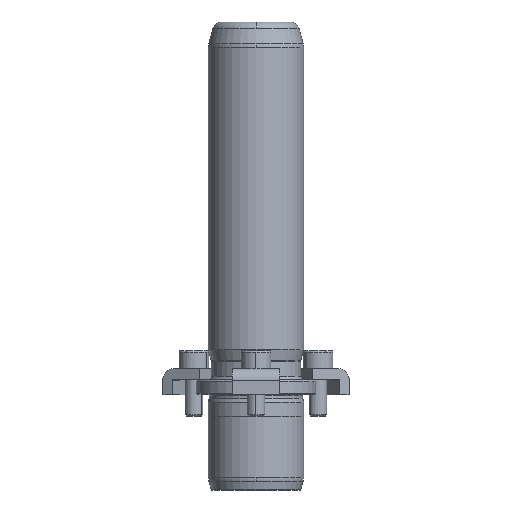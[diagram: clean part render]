
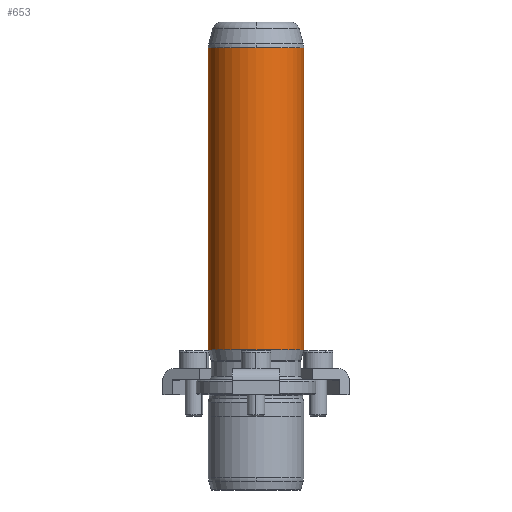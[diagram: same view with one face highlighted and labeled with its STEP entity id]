
A CAD part, front view. The second image highlights one B-rep face of the part: STEP entity #653.
In plain terms, the highlighted cylindrical face has radius 16 mm (diameter 32 mm), a partial arc.
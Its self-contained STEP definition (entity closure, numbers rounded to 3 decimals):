
#566=CARTESIAN_POINT('',(0.0,-16.,116.342));
#567=VERTEX_POINT('',#566);
#594=CARTESIAN_POINT('',(-16.0,0.,116.342));
#595=VERTEX_POINT('',#594);
#603=CARTESIAN_POINT('',(0.0,0.,116.342));
#604=DIRECTION('',(0.0,0.0,1.0));
#605=DIRECTION('',(1.0,0.0,0.0));
#606=AXIS2_PLACEMENT_3D('',#603,#604,#605);
#607=CIRCLE('',#606,16.0);
#608=EDGE_CURVE('',#595,#567,#607,.T.);
#613=CARTESIAN_POINT('',(0.0,0.,65.671));
#614=DIRECTION('',(0.0,0.,1.0));
#615=DIRECTION('',(1.0,0.0,0.0));
#616=AXIS2_PLACEMENT_3D('',#613,#614,#615);
#617=CYLINDRICAL_SURFACE('',#616,16.0);
#618=CARTESIAN_POINT('',(16.0,0.,116.342));
#619=VERTEX_POINT('',#618);
#620=CARTESIAN_POINT('',(16.0,0.,15.0));
#621=VERTEX_POINT('',#620);
#622=CARTESIAN_POINT('',(16.0,0.,116.342));
#623=DIRECTION('',(0.0,0.0,-1.0));
#624=VECTOR('',#623,101.342);
#625=LINE('',#622,#624);
#626=EDGE_CURVE('',#619,#621,#625,.T.);
#627=ORIENTED_EDGE('',*,*,#626,.F.);
#628=CARTESIAN_POINT('',(0.0,0.,116.342));
#629=DIRECTION('',(0.0,0.0,1.0));
#630=DIRECTION('',(1.0,0.0,0.0));
#631=AXIS2_PLACEMENT_3D('',#628,#629,#630);
#632=CIRCLE('',#631,16.0);
#633=EDGE_CURVE('',#567,#619,#632,.T.);
#634=ORIENTED_EDGE('',*,*,#633,.F.);
#635=ORIENTED_EDGE('',*,*,#608,.F.);
#636=CARTESIAN_POINT('',(-16.0,0.,15.0));
#637=VERTEX_POINT('',#636);
#638=CARTESIAN_POINT('',(-16.0,0.,116.342));
#639=DIRECTION('',(0.0,0.0,-1.0));
#640=VECTOR('',#639,101.342);
#641=LINE('',#638,#640);
#642=EDGE_CURVE('',#595,#637,#641,.T.);
#643=ORIENTED_EDGE('',*,*,#642,.T.);
#644=CARTESIAN_POINT('',(0.0,0.,15.0));
#645=DIRECTION('',(0.0,0.0,1.0));
#646=DIRECTION('',(1.0,0.0,0.0));
#647=AXIS2_PLACEMENT_3D('',#644,#645,#646);
#648=CIRCLE('',#647,16.0);
#649=EDGE_CURVE('',#637,#621,#648,.T.);
#650=ORIENTED_EDGE('',*,*,#649,.T.);
#651=EDGE_LOOP('',(#627,#634,#635,#643,#650));
#652=FACE_OUTER_BOUND('',#651,.T.);
#653=ADVANCED_FACE('',(#652),#617,.T.);
